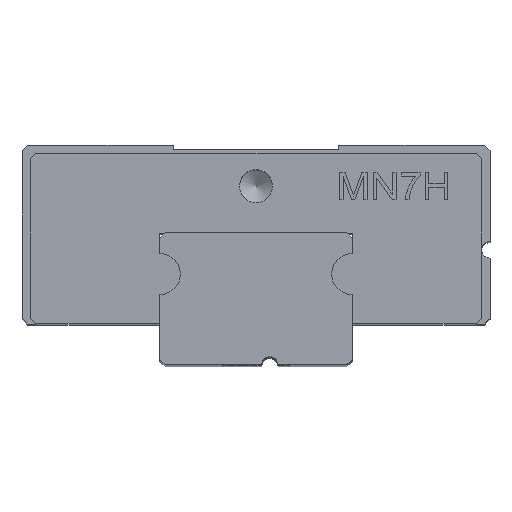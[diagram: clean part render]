
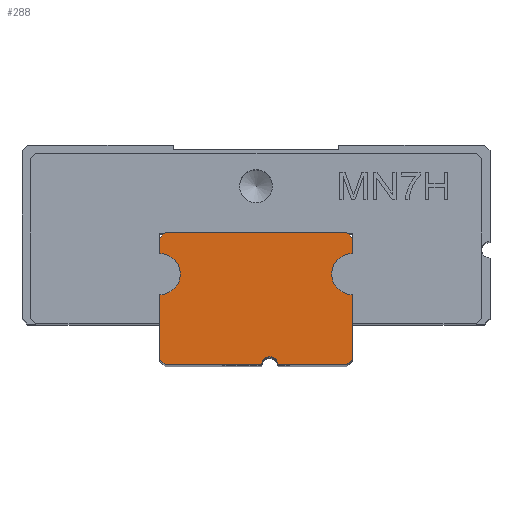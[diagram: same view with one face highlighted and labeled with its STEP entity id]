
A CAD part, top view. The second image highlights one B-rep face of the part: STEP entity #288.
In plain terms, the highlighted planar face has unit normal (0, 0, 1).
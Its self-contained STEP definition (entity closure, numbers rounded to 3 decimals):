
#184=PLANE('',#2540);
#288=ADVANCED_FACE('',(#441),#184,.F.);
#441=FACE_OUTER_BOUND('',#552,.T.);
#552=EDGE_LOOP('',(#913,#914,#915,#916,#917,#918,#919,#920,#921,#922,#923,
#924,#925,#926));
#701=CIRCLE('',#2520,0.3);
#706=CIRCLE('',#2528,0.75);
#711=CIRCLE('',#2537,0.75);
#913=ORIENTED_EDGE('',*,*,#1802,.T.);
#914=ORIENTED_EDGE('',*,*,#1820,.T.);
#915=ORIENTED_EDGE('',*,*,#1803,.T.);
#916=ORIENTED_EDGE('',*,*,#1821,.T.);
#917=ORIENTED_EDGE('',*,*,#1810,.T.);
#918=ORIENTED_EDGE('',*,*,#1816,.T.);
#919=ORIENTED_EDGE('',*,*,#1819,.T.);
#920=ORIENTED_EDGE('',*,*,#1822,.T.);
#921=ORIENTED_EDGE('',*,*,#1777,.T.);
#922=ORIENTED_EDGE('',*,*,#1786,.T.);
#923=ORIENTED_EDGE('',*,*,#1789,.T.);
#924=ORIENTED_EDGE('',*,*,#1823,.T.);
#925=ORIENTED_EDGE('',*,*,#1793,.T.);
#926=ORIENTED_EDGE('',*,*,#1799,.T.);
#1538=VERTEX_POINT('',#3398);
#1539=VERTEX_POINT('',#3399);
#1543=VERTEX_POINT('',#3442);
#1545=VERTEX_POINT('',#3448);
#1546=VERTEX_POINT('',#3455);
#1547=VERTEX_POINT('',#3456);
#1551=VERTEX_POINT('',#3466);
#1553=VERTEX_POINT('',#3472);
#1554=VERTEX_POINT('',#3476);
#1555=VERTEX_POINT('',#3477);
#1561=VERTEX_POINT('',#3491);
#1562=VERTEX_POINT('',#3492);
#1566=VERTEX_POINT('',#3502);
#1568=VERTEX_POINT('',#3508);
#1777=EDGE_CURVE('',#1538,#1539,#2111,.T.);
#1786=EDGE_CURVE('',#1539,#1543,#701,.T.);
#1789=EDGE_CURVE('',#1543,#1545,#2118,.T.);
#1793=EDGE_CURVE('',#1546,#1547,#2119,.T.);
#1799=EDGE_CURVE('',#1547,#1551,#706,.T.);
#1802=EDGE_CURVE('',#1551,#1553,#2126,.T.);
#1803=EDGE_CURVE('',#1554,#1555,#2127,.T.);
#1810=EDGE_CURVE('',#1561,#1562,#2131,.T.);
#1816=EDGE_CURVE('',#1562,#1566,#711,.T.);
#1819=EDGE_CURVE('',#1566,#1568,#2138,.T.);
#1820=EDGE_CURVE('',#1553,#1554,#2139,.T.);
#1821=EDGE_CURVE('',#1555,#1561,#2140,.T.);
#1822=EDGE_CURVE('',#1568,#1538,#2141,.T.);
#1823=EDGE_CURVE('',#1545,#1546,#2142,.T.);
#2111=LINE('',#3397,#2310);
#2118=LINE('',#3449,#2317);
#2119=LINE('',#3454,#2318);
#2126=LINE('',#3473,#2325);
#2127=LINE('',#3475,#2326);
#2131=LINE('',#3490,#2330);
#2138=LINE('',#3509,#2337);
#2139=LINE('',#3511,#2338);
#2140=LINE('',#3512,#2339);
#2141=LINE('',#3513,#2340);
#2142=LINE('',#3514,#2341);
#2310=VECTOR('',#2694,1.);
#2317=VECTOR('',#2713,1.);
#2318=VECTOR('',#2722,1.);
#2325=VECTOR('',#2737,1.);
#2326=VECTOR('',#2740,1.);
#2330=VECTOR('',#2752,1.);
#2337=VECTOR('',#2767,1.);
#2338=VECTOR('',#2770,1.);
#2339=VECTOR('',#2771,1.);
#2340=VECTOR('',#2772,1.);
#2341=VECTOR('',#2773,1.);
#2520=AXIS2_PLACEMENT_3D('',#3443,#2707,#2708);
#2528=AXIS2_PLACEMENT_3D('',#3467,#2731,#2732);
#2537=AXIS2_PLACEMENT_3D('',#3503,#2761,#2762);
#2540=AXIS2_PLACEMENT_3D('',#3515,#2774,#2775);
#2694=DIRECTION('',(1.,0.,0.));
#2707=DIRECTION('',(0.,0.,-1.));
#2708=DIRECTION('',(-1.,0.,0.));
#2713=DIRECTION('',(1.,0.,0.));
#2722=DIRECTION('',(0.,1.,0.));
#2731=DIRECTION('',(0.,0.,-1.));
#2732=DIRECTION('',(0.,-1.,0.));
#2737=DIRECTION('',(0.,1.,0.));
#2740=DIRECTION('',(-1.,0.,0.));
#2752=DIRECTION('',(0.,-1.,0.));
#2761=DIRECTION('',(0.,0.,-1.));
#2762=DIRECTION('',(0.,1.,0.));
#2767=DIRECTION('',(0.,-1.,0.));
#2770=DIRECTION('',(-0.707,0.707,0.));
#2771=DIRECTION('',(-0.707,-0.707,0.));
#2772=DIRECTION('',(0.707,-0.707,0.));
#2773=DIRECTION('',(0.707,0.707,0.));
#2774=DIRECTION('',(0.,0.,-1.));
#2775=DIRECTION('',(1.,0.,0.));
#3397=CARTESIAN_POINT('',(-3.3,0.,20.));
#3398=CARTESIAN_POINT('',(-3.3,0.,20.));
#3399=CARTESIAN_POINT('',(0.2,0.,20.));
#3442=CARTESIAN_POINT('',(0.8,0.,20.));
#3443=CARTESIAN_POINT('',(0.5,0.,20.));
#3448=CARTESIAN_POINT('',(3.3,0.,20.));
#3449=CARTESIAN_POINT('',(0.8,0.,20.));
#3454=CARTESIAN_POINT('',(3.5,0.2,20.));
#3455=CARTESIAN_POINT('',(3.5,0.2,20.));
#3456=CARTESIAN_POINT('',(3.5,2.55,20.));
#3466=CARTESIAN_POINT('',(3.5,4.05,20.));
#3467=CARTESIAN_POINT('',(3.5,3.3,20.));
#3472=CARTESIAN_POINT('',(3.5,4.6,20.));
#3473=CARTESIAN_POINT('',(3.5,4.05,20.));
#3475=CARTESIAN_POINT('',(3.3,4.8,20.));
#3476=CARTESIAN_POINT('',(3.3,4.8,20.));
#3477=CARTESIAN_POINT('',(-3.3,4.8,20.));
#3490=CARTESIAN_POINT('',(-3.5,4.6,20.));
#3491=CARTESIAN_POINT('',(-3.5,4.6,20.));
#3492=CARTESIAN_POINT('',(-3.5,4.05,20.));
#3502=CARTESIAN_POINT('',(-3.5,2.55,20.));
#3503=CARTESIAN_POINT('',(-3.5,3.3,20.));
#3508=CARTESIAN_POINT('',(-3.5,0.2,20.));
#3509=CARTESIAN_POINT('',(-3.5,2.55,20.));
#3511=CARTESIAN_POINT('',(3.5,4.6,20.));
#3512=CARTESIAN_POINT('',(-3.3,4.8,20.));
#3513=CARTESIAN_POINT('',(-3.5,0.2,20.));
#3514=CARTESIAN_POINT('',(3.3,0.,20.));
#3515=CARTESIAN_POINT('',(3.85,-0.24,20.));
